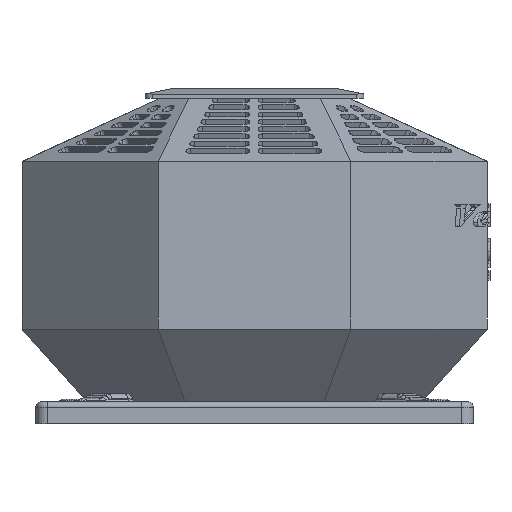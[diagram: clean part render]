
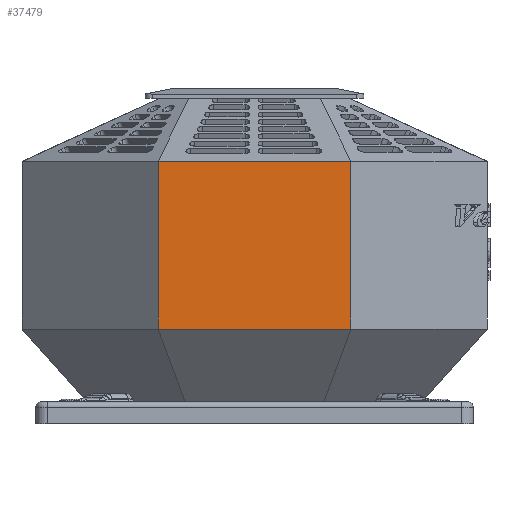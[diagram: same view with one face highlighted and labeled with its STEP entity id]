
A CAD part, left-side view. The second image highlights one B-rep face of the part: STEP entity #37479.
In plain terms, the highlighted planar face has unit normal (-1, 0, 0).
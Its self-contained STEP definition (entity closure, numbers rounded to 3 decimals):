
#4268=FACE_OUTER_BOUND('',#6420,.T.);
#6420=EDGE_LOOP('',(#33156,#33157,#33158,#33159));
#10612=LINE('',#70929,#13826);
#10614=LINE('',#70933,#13828);
#10626=LINE('',#70955,#13840);
#10627=LINE('',#70957,#13841);
#13826=VECTOR('',#48423,10.);
#13828=VECTOR('',#48427,10.);
#13840=VECTOR('',#48455,10.);
#13841=VECTOR('',#48458,10.);
#15163=VERTEX_POINT('',#58340);
#17306=VERTEX_POINT('',#70916);
#17308=VERTEX_POINT('',#70932);
#17310=VERTEX_POINT('',#70947);
#22584=EDGE_CURVE('',#17306,#15163,#10612,.T.);
#22586=EDGE_CURVE('',#17308,#15163,#10614,.T.);
#22598=EDGE_CURVE('',#17310,#17308,#10626,.T.);
#22599=EDGE_CURVE('',#17306,#17310,#10627,.T.);
#33156=ORIENTED_EDGE('',*,*,#22586,.T.);
#33157=ORIENTED_EDGE('',*,*,#22584,.F.);
#33158=ORIENTED_EDGE('',*,*,#22599,.T.);
#33159=ORIENTED_EDGE('',*,*,#22598,.T.);
#34135=PLANE('',#40082);
#37479=ADVANCED_FACE('',(#4268),#34135,.T.);
#40082=AXIS2_PLACEMENT_3D('',#70958,#48459,#48460);
#48423=DIRECTION('',(0.,0.,1.));
#48427=DIRECTION('',(0.,1.,0.));
#48455=DIRECTION('',(0.,0.,1.));
#48458=DIRECTION('',(0.,-1.,0.));
#48459=DIRECTION('center_axis',(-1.,0.,0.));
#48460=DIRECTION('ref_axis',(0.,-1.,0.));
#58340=CARTESIAN_POINT('',(144.069,372.839,287.5));
#70916=CARTESIAN_POINT('',(144.069,372.839,172.5));
#70929=CARTESIAN_POINT('',(144.069,372.839,122.5));
#70932=CARTESIAN_POINT('',(144.069,240.705,287.5));
#70933=CARTESIAN_POINT('',(144.069,260.055,287.5));
#70947=CARTESIAN_POINT('',(144.069,240.705,172.5));
#70955=CARTESIAN_POINT('',(144.069,240.705,122.5));
#70957=CARTESIAN_POINT('',(144.069,260.055,172.5));
#70958=CARTESIAN_POINT('Origin',(144.069,372.839,122.5));
